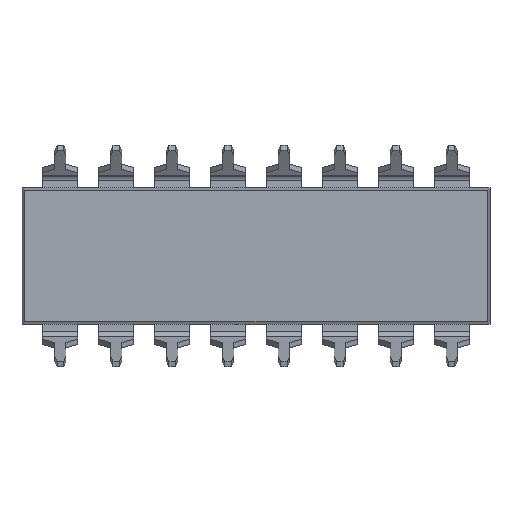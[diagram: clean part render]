
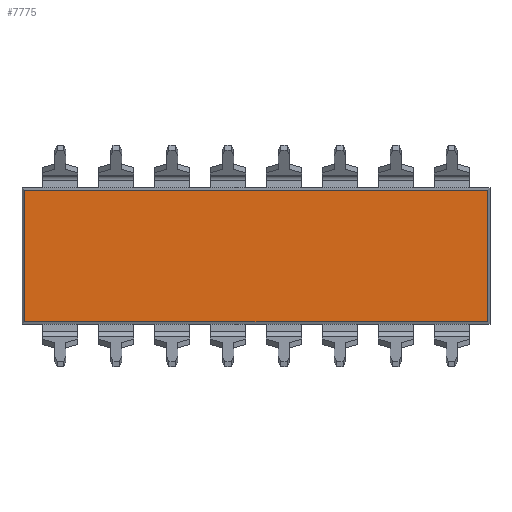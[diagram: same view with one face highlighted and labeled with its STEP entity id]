
A CAD part, front view. The second image highlights one B-rep face of the part: STEP entity #7775.
In plain terms, the highlighted planar face has unit normal (0, -1, 0).
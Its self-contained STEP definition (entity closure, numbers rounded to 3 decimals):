
#1779 = DIRECTION ( 'NONE',  ( 0., 0., 1. ) ) ;
#1783 = CARTESIAN_POINT ( 'NONE',  ( -10.507, -2.05, -2.977 ) ) ;
#2139 = VECTOR ( 'NONE', #1779, 1000. ) ;
#3364 = EDGE_CURVE ( 'NONE', #26816, #17677, #19474, .T. ) ;
#4042 = DIRECTION ( 'NONE',  ( 0., 0., 1. ) ) ;
#4643 = EDGE_LOOP ( 'NONE', ( #26054, #26114, #7932, #10667 ) ) ;
#7771 = EDGE_CURVE ( 'NONE', #26816, #28338, #10885, .T. ) ;
#7775 = ADVANCED_FACE ( 'NONE', ( #28892 ), #14949, .F. ) ;
#7932 = ORIENTED_EDGE ( 'NONE', *, *, #27577, .T. ) ;
#8395 = CARTESIAN_POINT ( 'NONE',  ( 10.507, -2.05, -3.1 ) ) ;
#9509 = LINE ( 'NONE', #25907, #21564 ) ;
#10497 = DIRECTION ( 'NONE',  ( 0., 1., 0. ) ) ;
#10667 = ORIENTED_EDGE ( 'NONE', *, *, #27431, .F. ) ;
#10885 = LINE ( 'NONE', #12614, #22231 ) ;
#12402 = DIRECTION ( 'NONE',  ( 1., 0., 0. ) ) ;
#12614 = CARTESIAN_POINT ( 'NONE',  ( -10.63, -2.05, -2.977 ) ) ;
#12712 = DIRECTION ( 'NONE',  ( 1., 0., 0. ) ) ;
#13858 = VECTOR ( 'NONE', #4042, 1000. ) ;
#14564 = LINE ( 'NONE', #8395, #13858 ) ;
#14949 = PLANE ( 'NONE',  #21664 ) ;
#17677 = VERTEX_POINT ( 'NONE', #19987 ) ;
#19474 = LINE ( 'NONE', #28964, #2139 ) ;
#19987 = CARTESIAN_POINT ( 'NONE',  ( -10.507, -2.05, 2.977 ) ) ;
#21564 = VECTOR ( 'NONE', #12402, 1000. ) ;
#21664 = AXIS2_PLACEMENT_3D ( 'NONE', #24058, #10497, #26303 ) ;
#22231 = VECTOR ( 'NONE', #12712, 1000. ) ;
#22359 = CARTESIAN_POINT ( 'NONE',  ( 10.507, -2.05, 2.977 ) ) ;
#23787 = CARTESIAN_POINT ( 'NONE',  ( 10.507, -2.05, -2.977 ) ) ;
#24058 = CARTESIAN_POINT ( 'NONE',  ( -10.63, -2.05, 3.1 ) ) ;
#25907 = CARTESIAN_POINT ( 'NONE',  ( -10.63, -2.05, 2.977 ) ) ;
#26054 = ORIENTED_EDGE ( 'NONE', *, *, #3364, .F. ) ;
#26114 = ORIENTED_EDGE ( 'NONE', *, *, #7771, .T. ) ;
#26303 = DIRECTION ( 'NONE',  ( 0., 0., 1. ) ) ;
#26816 = VERTEX_POINT ( 'NONE', #1783 ) ;
#27431 = EDGE_CURVE ( 'NONE', #17677, #27634, #9509, .T. ) ;
#27577 = EDGE_CURVE ( 'NONE', #28338, #27634, #14564, .T. ) ;
#27634 = VERTEX_POINT ( 'NONE', #22359 ) ;
#28338 = VERTEX_POINT ( 'NONE', #23787 ) ;
#28892 = FACE_OUTER_BOUND ( 'NONE', #4643, .T. ) ;
#28964 = CARTESIAN_POINT ( 'NONE',  ( -10.507, -2.05, -3.1 ) ) ;
